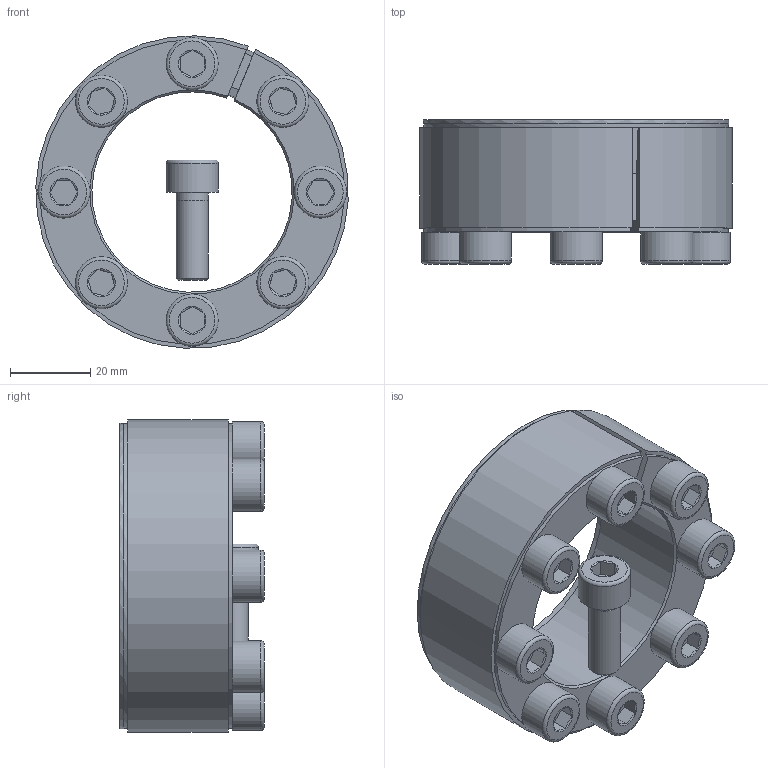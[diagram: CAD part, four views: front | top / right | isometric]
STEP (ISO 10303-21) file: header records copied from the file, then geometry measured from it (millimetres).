
FILE_DESCRIPTION( ( 'Unknown' ), '1' );
FILE_NAME( 'C:/Dokumente und Einstellungen/Sven/Desktop/homepage/cad - homepage/KBS52/KBS 52 - 50 x 78.stp', 'Unknown', ( 'Unknown' ), ( 'Unknown' ), 'XStep 1.0', 'Unknown', ' ' );
FILE_SCHEMA( ( 'automotive_design' ) );
Length unit declared in the file: millimetre
Products named in the file (3): Assem1; KBS 52 - 50 x 78; ISO EN DIN 4762 M8x22
Bounding box: 77.91 x 36 x 77.95 mm (x, y, z)
Volume: 150907.1 mm3; surface area: 54905 mm2
Topology: 11 solids, 11 shells, 281 faces, 553 edges, 328 vertices
Faces by surface type: plane 134, cone 69, cylinder 60, torus 18
Full cylindrical faces by diameter (mm): 7 x9, 8 x34, 13 x9, 76.175 x2
Entity records: 1717 total; most frequent: CARTESIAN_POINT 283, DIRECTION 263, ORIENTED_EDGE 196, AXIS2_PLACEMENT_3D 110, EDGE_CURVE 98, EDGE_LOOP 92, VERTEX_POINT 70, FACE_OUTER_BOUND 68
